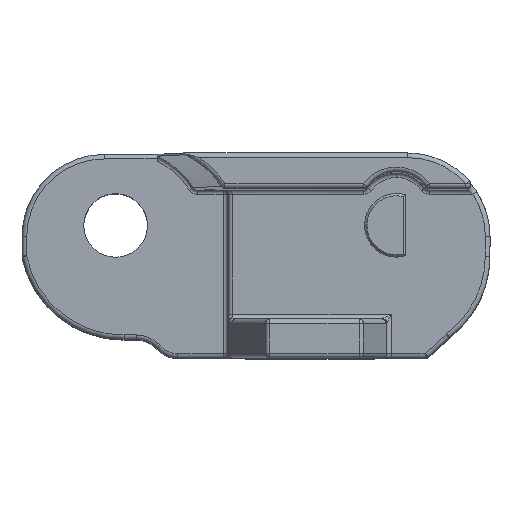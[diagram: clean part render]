
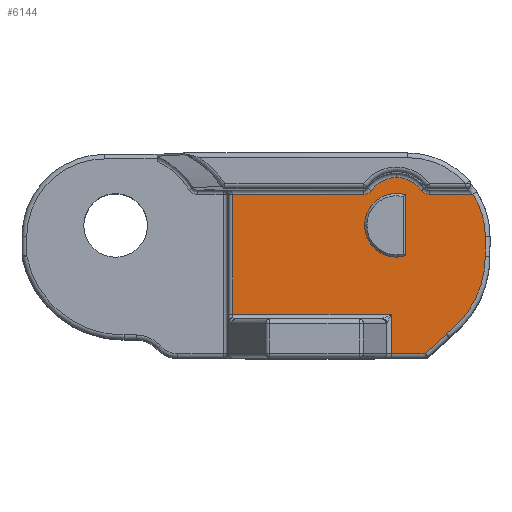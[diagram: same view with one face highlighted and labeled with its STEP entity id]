
A CAD part, top view. The second image highlights one B-rep face of the part: STEP entity #6144.
In plain terms, the highlighted planar face has unit normal (0, 0, 1).
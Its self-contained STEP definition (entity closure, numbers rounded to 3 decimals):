
#18 = CARTESIAN_POINT ( 'NONE',  ( -3.175, 9.017, 28.448 ) ) ;
#72 = ORIENTED_EDGE ( 'NONE', *, *, #2309, .F. ) ;
#242 = CARTESIAN_POINT ( 'NONE',  ( 25.886, -10.526, 28.448 ) ) ;
#304 = CARTESIAN_POINT ( 'NONE',  ( 31.115, 2.667, 28.448 ) ) ;
#337 = LINE ( 'NONE', #7896, #3440 ) ;
#356 = DIRECTION ( 'NONE',  ( 0., 1., 0. ) ) ;
#368 = CARTESIAN_POINT ( 'NONE',  ( 18.352, 9.017, 28.448 ) ) ;
#453 = CIRCLE ( 'NONE', #7517, 1.27 ) ;
#463 = PLANE ( 'NONE',  #5895 ) ;
#490 = EDGE_LOOP ( 'NONE', ( #8357, #1955, #3934, #1686, #996, #5080, #7709, #7657, #6475, #5128, #7762, #5229, #623, #8508, #72 ) ) ;
#546 = VERTEX_POINT ( 'NONE', #8118 ) ;
#623 = ORIENTED_EDGE ( 'NONE', *, *, #7114, .T. ) ;
#693 = CARTESIAN_POINT ( 'NONE',  ( 29.431, 8.382, 28.448 ) ) ;
#762 = CIRCLE ( 'NONE', #2841, 4.191 ) ;
#817 = CARTESIAN_POINT ( 'NONE',  ( -97.105, 8.382, 28.448 ) ) ;
#996 = ORIENTED_EDGE ( 'NONE', *, *, #1364, .T. ) ;
#1007 = CARTESIAN_POINT ( 'NONE',  ( 23.493, 9.652, 28.448 ) ) ;
#1070 = VECTOR ( 'NONE', #4182, 1000. ) ;
#1086 = VERTEX_POINT ( 'NONE', #6412 ) ;
#1114 = DIRECTION ( 'NONE',  ( 0., 0., -1. ) ) ;
#1251 = VECTOR ( 'NONE', #8524, 1000. ) ;
#1277 = LINE ( 'NONE', #3532, #1070 ) ;
#1291 = EDGE_CURVE ( 'NONE', #1809, #3170, #1749, .T. ) ;
#1349 = VECTOR ( 'NONE', #6623, 1000. ) ;
#1364 = EDGE_CURVE ( 'NONE', #2711, #2224, #2881, .T. ) ;
#1371 = CARTESIAN_POINT ( 'NONE',  ( 19.05, 10.668, 28.448 ) ) ;
#1391 = CARTESIAN_POINT ( 'NONE',  ( 20.574, 2.667, 28.448 ) ) ;
#1473 = CARTESIAN_POINT ( 'NONE',  ( 20.32, 0.064, 28.448 ) ) ;
#1669 = DIRECTION ( 'NONE',  ( 0., 1., 0. ) ) ;
#1681 = AXIS2_PLACEMENT_3D ( 'NONE', #1391, #6025, #2050 ) ;
#1686 = ORIENTED_EDGE ( 'NONE', *, *, #4332, .T. ) ;
#1745 = AXIS2_PLACEMENT_3D ( 'NONE', #6705, #2739, #7380 ) ;
#1749 = LINE ( 'NONE', #18, #1349 ) ;
#1809 = VERTEX_POINT ( 'NONE', #2986 ) ;
#1841 = VECTOR ( 'NONE', #5682, 1000. ) ;
#1955 = ORIENTED_EDGE ( 'NONE', *, *, #1291, .T. ) ;
#2024 = CARTESIAN_POINT ( 'NONE',  ( -97.105, -7.874, 28.448 ) ) ;
#2050 = DIRECTION ( 'NONE',  ( 0., 1., 0. ) ) ;
#2065 = VECTOR ( 'NONE', #5990, 1000. ) ;
#2086 = ORIENTED_EDGE ( 'NONE', *, *, #3974, .T. ) ;
#2224 = VERTEX_POINT ( 'NONE', #7421 ) ;
#2244 = CARTESIAN_POINT ( 'NONE',  ( 18.352, -13.208, 28.448 ) ) ;
#2272 = DIRECTION ( 'NONE',  ( 0., 0., -1. ) ) ;
#2309 = EDGE_CURVE ( 'NONE', #1086, #5629, #7226, .T. ) ;
#2335 = EDGE_LOOP ( 'NONE', ( #4522, #2086 ) ) ;
#2375 = CARTESIAN_POINT ( 'NONE',  ( 22.46, 8.914, 28.448 ) ) ;
#2446 = FACE_BOUND ( 'NONE', #2335, .T. ) ;
#2613 = CARTESIAN_POINT ( 'NONE',  ( 17.907, 0., 28.448 ) ) ;
#2645 = EDGE_CURVE ( 'NONE', #5751, #7947, #1277, .T. ) ;
#2711 = VERTEX_POINT ( 'NONE', #2244 ) ;
#2739 = DIRECTION ( 'NONE',  ( 0., 0., 1. ) ) ;
#2798 = DIRECTION ( 'NONE',  ( 0., 0., 1. ) ) ;
#2841 = AXIS2_PLACEMENT_3D ( 'NONE', #8267, #4288, #356 ) ;
#2881 = LINE ( 'NONE', #7301, #7977 ) ;
#2923 = CARTESIAN_POINT ( 'NONE',  ( 14.607, 9.652, 28.448 ) ) ;
#2986 = CARTESIAN_POINT ( 'NONE',  ( -3.175, 8.382, 28.448 ) ) ;
#3014 = CIRCLE ( 'NONE', #1745, 4.191 ) ;
#3084 = EDGE_CURVE ( 'NONE', #7670, #5629, #3014, .T. ) ;
#3104 = VERTEX_POINT ( 'NONE', #8049 ) ;
#3114 = CIRCLE ( 'NONE', #6583, 4.318 ) ;
#3141 = EDGE_CURVE ( 'NONE', #6056, #546, #6137, .T. ) ;
#3170 = VERTEX_POINT ( 'NONE', #4132 ) ;
#3291 = DIRECTION ( 'NONE',  ( 0., 1., 0. ) ) ;
#3326 = VECTOR ( 'NONE', #6978, 1000. ) ;
#3353 = EDGE_CURVE ( 'NONE', #3642, #7798, #453, .T. ) ;
#3440 = VECTOR ( 'NONE', #4583, 1000. ) ;
#3532 = CARTESIAN_POINT ( 'NONE',  ( 31.115, 9.017, 28.448 ) ) ;
#3597 = DIRECTION ( 'NONE',  ( 0., 1., 0. ) ) ;
#3642 = VERTEX_POINT ( 'NONE', #2375 ) ;
#3887 = CARTESIAN_POINT ( 'NONE',  ( 25.818, -10.58, 28.448 ) ) ;
#3934 = ORIENTED_EDGE ( 'NONE', *, *, #6885, .T. ) ;
#3968 = AXIS2_PLACEMENT_3D ( 'NONE', #6759, #2798, #7435 ) ;
#3974 = EDGE_CURVE ( 'NONE', #8323, #3104, #3114, .T. ) ;
#4010 = FACE_OUTER_BOUND ( 'NONE', #490, .T. ) ;
#4132 = CARTESIAN_POINT ( 'NONE',  ( -3.175, -7.874, 28.448 ) ) ;
#4133 = CARTESIAN_POINT ( 'NONE',  ( 23.493, 8.382, 28.448 ) ) ;
#4161 = EDGE_CURVE ( 'NONE', #1086, #1809, #337, .T. ) ;
#4182 = DIRECTION ( 'NONE',  ( 0., 1., 0. ) ) ;
#4288 = DIRECTION ( 'NONE',  ( 0., 0., 1. ) ) ;
#4332 = EDGE_CURVE ( 'NONE', #6609, #2711, #5058, .T. ) ;
#4334 = CIRCLE ( 'NONE', #6553, 13.208 ) ;
#4522 = ORIENTED_EDGE ( 'NONE', *, *, #5626, .T. ) ;
#4583 = DIRECTION ( 'NONE',  ( -1., 0., 0. ) ) ;
#4925 = CARTESIAN_POINT ( 'NONE',  ( 18.352, -7.874, 28.448 ) ) ;
#4926 = VERTEX_POINT ( 'NONE', #693 ) ;
#5009 = CARTESIAN_POINT ( 'NONE',  ( 20.32, 9.017, 28.448 ) ) ;
#5058 = LINE ( 'NONE', #368, #3326 ) ;
#5080 = ORIENTED_EDGE ( 'NONE', *, *, #7401, .T. ) ;
#5128 = ORIENTED_EDGE ( 'NONE', *, *, #6911, .T. ) ;
#5229 = ORIENTED_EDGE ( 'NONE', *, *, #3353, .F. ) ;
#5423 = DIRECTION ( 'NONE',  ( -1., 0., 0. ) ) ;
#5574 = LINE ( 'NONE', #2024, #2065 ) ;
#5625 = DIRECTION ( 'NONE',  ( 0., 0., 1. ) ) ;
#5626 = EDGE_CURVE ( 'NONE', #3104, #8323, #7117, .T. ) ;
#5629 = VERTEX_POINT ( 'NONE', #6354 ) ;
#5682 = DIRECTION ( 'NONE',  ( 0., -1., 0. ) ) ;
#5724 = DIRECTION ( 'NONE',  ( 0., 1., 0. ) ) ;
#5751 = VERTEX_POINT ( 'NONE', #8464 ) ;
#5895 = AXIS2_PLACEMENT_3D ( 'NONE', #7046, #1114, #5724 ) ;
#5990 = DIRECTION ( 'NONE',  ( 1., 0., 0. ) ) ;
#6020 = AXIS2_PLACEMENT_3D ( 'NONE', #2923, #7564, #3597 ) ;
#6025 = DIRECTION ( 'NONE',  ( 0., 0., 1. ) ) ;
#6056 = VERTEX_POINT ( 'NONE', #242 ) ;
#6137 = CIRCLE ( 'NONE', #3968, 1.27 ) ;
#6144 = ADVANCED_FACE ( 'NONE', ( #2446, #4010 ), #463, .F. ) ;
#6243 = CARTESIAN_POINT ( 'NONE',  ( 19.05, 4.191, 28.448 ) ) ;
#6354 = CARTESIAN_POINT ( 'NONE',  ( 15.64, 8.914, 28.448 ) ) ;
#6412 = CARTESIAN_POINT ( 'NONE',  ( 14.607, 8.382, 28.448 ) ) ;
#6475 = ORIENTED_EDGE ( 'NONE', *, *, #2645, .T. ) ;
#6553 = AXIS2_PLACEMENT_3D ( 'NONE', #2613, #7252, #3291 ) ;
#6583 = AXIS2_PLACEMENT_3D ( 'NONE', #6243, #2272, #6898 ) ;
#6609 = VERTEX_POINT ( 'NONE', #4925 ) ;
#6623 = DIRECTION ( 'NONE',  ( 0., -1., 0. ) ) ;
#6705 = CARTESIAN_POINT ( 'NONE',  ( 19.05, 6.477, 28.448 ) ) ;
#6710 = VECTOR ( 'NONE', #5423, 1000. ) ;
#6759 = CARTESIAN_POINT ( 'NONE',  ( 26.653, -11.538, 28.448 ) ) ;
#6885 = EDGE_CURVE ( 'NONE', #3170, #6609, #5574, .T. ) ;
#6898 = DIRECTION ( 'NONE',  ( 0., 1., 0. ) ) ;
#6911 = EDGE_CURVE ( 'NONE', #7947, #4926, #7340, .T. ) ;
#6978 = DIRECTION ( 'NONE',  ( 0., -1., 0. ) ) ;
#7046 = CARTESIAN_POINT ( 'NONE',  ( -97.105, 9.017, 28.448 ) ) ;
#7114 = EDGE_CURVE ( 'NONE', #3642, #7670, #762, .T. ) ;
#7117 = LINE ( 'NONE', #5009, #1841 ) ;
#7226 = CIRCLE ( 'NONE', #6020, 1.27 ) ;
#7252 = DIRECTION ( 'NONE',  ( 0., 0., 1. ) ) ;
#7301 = CARTESIAN_POINT ( 'NONE',  ( -97.105, -13.208, 28.448 ) ) ;
#7340 = CIRCLE ( 'NONE', #1681, 10.541 ) ;
#7380 = DIRECTION ( 'NONE',  ( 0., 1., 0. ) ) ;
#7401 = EDGE_CURVE ( 'NONE', #2224, #546, #7877, .T. ) ;
#7413 = EDGE_CURVE ( 'NONE', #6056, #5751, #4334, .T. ) ;
#7421 = CARTESIAN_POINT ( 'NONE',  ( 22.942, -13.208, 28.448 ) ) ;
#7435 = DIRECTION ( 'NONE',  ( 0., 1., 0. ) ) ;
#7517 = AXIS2_PLACEMENT_3D ( 'NONE', #1007, #5625, #1669 ) ;
#7564 = DIRECTION ( 'NONE',  ( 0., 0., 1. ) ) ;
#7657 = ORIENTED_EDGE ( 'NONE', *, *, #7413, .T. ) ;
#7670 = VERTEX_POINT ( 'NONE', #1371 ) ;
#7709 = ORIENTED_EDGE ( 'NONE', *, *, #3141, .F. ) ;
#7762 = ORIENTED_EDGE ( 'NONE', *, *, #8314, .T. ) ;
#7798 = VERTEX_POINT ( 'NONE', #4133 ) ;
#7877 = LINE ( 'NONE', #3887, #1251 ) ;
#7896 = CARTESIAN_POINT ( 'NONE',  ( -97.105, 8.382, 28.448 ) ) ;
#7947 = VERTEX_POINT ( 'NONE', #304 ) ;
#7953 = DIRECTION ( 'NONE',  ( 1., 0., 0. ) ) ;
#7977 = VECTOR ( 'NONE', #7953, 1000. ) ;
#8049 = CARTESIAN_POINT ( 'NONE',  ( 20.32, 8.318, 28.448 ) ) ;
#8118 = CARTESIAN_POINT ( 'NONE',  ( 25.796, -10.6, 28.448 ) ) ;
#8267 = CARTESIAN_POINT ( 'NONE',  ( 19.05, 6.477, 28.448 ) ) ;
#8314 = EDGE_CURVE ( 'NONE', #4926, #7798, #8472, .T. ) ;
#8323 = VERTEX_POINT ( 'NONE', #1473 ) ;
#8357 = ORIENTED_EDGE ( 'NONE', *, *, #4161, .T. ) ;
#8464 = CARTESIAN_POINT ( 'NONE',  ( 31.115, 0., 28.448 ) ) ;
#8472 = LINE ( 'NONE', #817, #6710 ) ;
#8508 = ORIENTED_EDGE ( 'NONE', *, *, #3084, .T. ) ;
#8524 = DIRECTION ( 'NONE',  ( 0.738, 0.675, 0. ) ) ;
